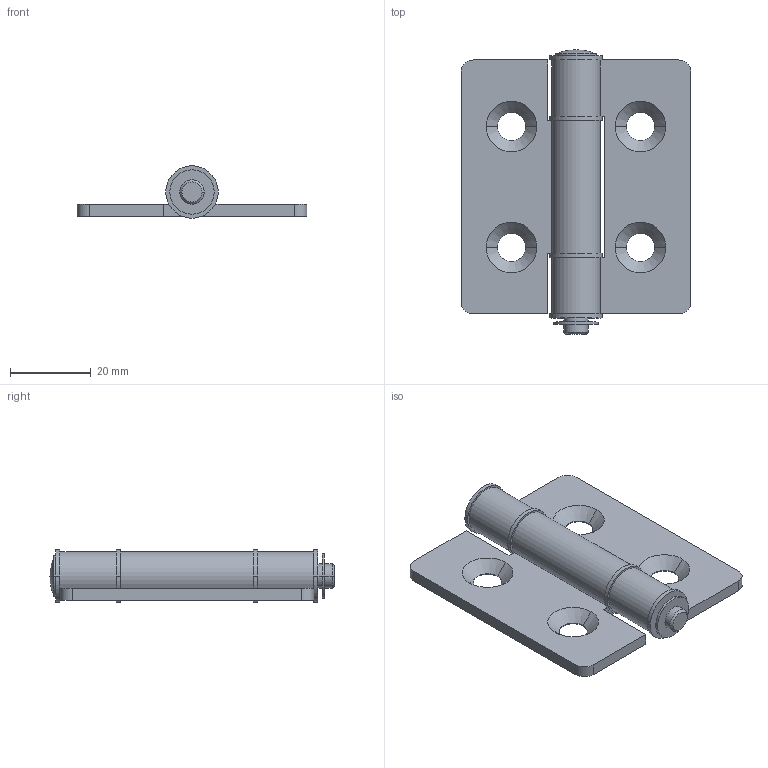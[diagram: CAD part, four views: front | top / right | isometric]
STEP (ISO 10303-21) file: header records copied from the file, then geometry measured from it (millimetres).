
FILE_DESCRIPTION (( 'STEP AP214' ), '1' );
FILE_NAME ('J3HS.step', '2017-05-24T07:45:44', ( 'admin' ), ( '' ), 'SwSTEP 2.0', 'SolidWorks 2014', '' );
FILE_SCHEMA (( 'AUTOMOTIVE_DESIGN' ));
Length unit declared in the file: millimetre
Products named in the file (4): J3HS-3; J3HS; J3HS-2; J3HS-1
Assembly tree (3 placements, depth 2):
  J3HS
    J3HS-3
    J3HS-1
    J3HS-2
Bounding box: 57 x 70.5 x 13 mm (x, y, z)
Volume: 15999.4 mm3; surface area: 12556.6 mm2
Topology: 3 solids, 3 shells, 86 faces, 198 edges, 127 vertices
Faces by surface type: cylinder 45, plane 29, cone 10, torus 2
Entity records: 2636 total; most frequent: DIRECTION 482, CARTESIAN_POINT 415, ORIENTED_EDGE 392, EDGE_CURVE 196, AXIS2_PLACEMENT_3D 194, VERTEX_POINT 127, EDGE_LOOP 111, CIRCLE 102
